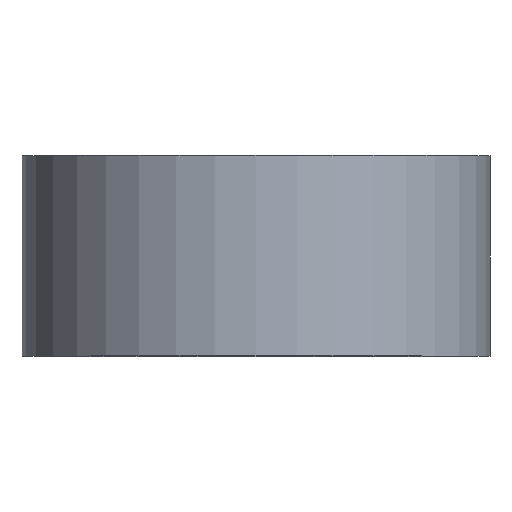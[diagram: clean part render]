
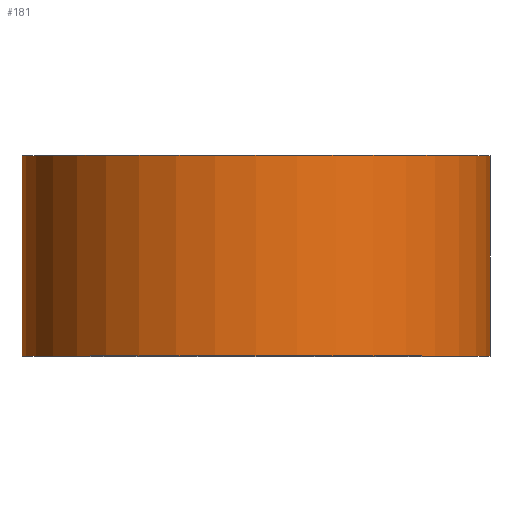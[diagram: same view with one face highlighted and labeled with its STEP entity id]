
A CAD part, top view. The second image highlights one B-rep face of the part: STEP entity #181.
In plain terms, the highlighted cylindrical face has radius 35 mm (diameter 70 mm), a partial arc.
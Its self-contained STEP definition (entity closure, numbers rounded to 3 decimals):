
#3 = DIRECTION ( 'NONE',  ( 0., 1., 0. ) ) ;
#5 = CIRCLE ( 'NONE', #141, 35. ) ;
#30 = CARTESIAN_POINT ( 'NONE',  ( 0., 0., 0. ) ) ;
#40 = CARTESIAN_POINT ( 'NONE',  ( 35., 0., 0. ) ) ;
#54 = AXIS2_PLACEMENT_3D ( 'NONE', #30, #256, #282 ) ;
#69 = VERTEX_POINT ( 'NONE', #40 ) ;
#73 = LINE ( 'NONE', #204, #300 ) ;
#76 = DIRECTION ( 'NONE',  ( 0., 1., 0. ) ) ;
#78 = ORIENTED_EDGE ( 'NONE', *, *, #79, .T. ) ;
#79 = EDGE_CURVE ( 'NONE', #69, #114, #275, .T. ) ;
#83 = CARTESIAN_POINT ( 'NONE',  ( 35., 30., 0. ) ) ;
#104 = VERTEX_POINT ( 'NONE', #243 ) ;
#114 = VERTEX_POINT ( 'NONE', #83 ) ;
#116 = FACE_OUTER_BOUND ( 'NONE', #128, .T. ) ;
#122 = CIRCLE ( 'NONE', #215, 35. ) ;
#124 = DIRECTION ( 'NONE',  ( -1., 0., 0. ) ) ;
#128 = EDGE_LOOP ( 'NONE', ( #137, #78, #220, #152 ) ) ;
#137 = ORIENTED_EDGE ( 'NONE', *, *, #198, .T. ) ;
#138 = CYLINDRICAL_SURFACE ( 'NONE', #54, 35. ) ;
#141 = AXIS2_PLACEMENT_3D ( 'NONE', #285, #76, #228 ) ;
#145 = DIRECTION ( 'NONE',  ( 0., 1., 0. ) ) ;
#147 = CARTESIAN_POINT ( 'NONE',  ( 0., 30., 0. ) ) ;
#152 = ORIENTED_EDGE ( 'NONE', *, *, #235, .F. ) ;
#156 = CARTESIAN_POINT ( 'NONE',  ( 35., 0., 0. ) ) ;
#175 = DIRECTION ( 'NONE',  ( 0., 1., 0. ) ) ;
#181 = ADVANCED_FACE ( 'NONE', ( #116 ), #138, .T. ) ;
#198 = EDGE_CURVE ( 'NONE', #104, #69, #5, .T. ) ;
#204 = CARTESIAN_POINT ( 'NONE',  ( -35., 0., 0. ) ) ;
#215 = AXIS2_PLACEMENT_3D ( 'NONE', #147, #3, #124 ) ;
#220 = ORIENTED_EDGE ( 'NONE', *, *, #222, .F. ) ;
#222 = EDGE_CURVE ( 'NONE', #244, #114, #122, .T. ) ;
#224 = CARTESIAN_POINT ( 'NONE',  ( -35., 30., 0. ) ) ;
#228 = DIRECTION ( 'NONE',  ( -1., 0., 0. ) ) ;
#235 = EDGE_CURVE ( 'NONE', #104, #244, #73, .T. ) ;
#243 = CARTESIAN_POINT ( 'NONE',  ( -35., 0., 0. ) ) ;
#244 = VERTEX_POINT ( 'NONE', #224 ) ;
#256 = DIRECTION ( 'NONE',  ( 0., 1., 0. ) ) ;
#261 = VECTOR ( 'NONE', #175, 1000. ) ;
#275 = LINE ( 'NONE', #156, #261 ) ;
#282 = DIRECTION ( 'NONE',  ( -1., 0., 0. ) ) ;
#285 = CARTESIAN_POINT ( 'NONE',  ( 0., 0., 0. ) ) ;
#300 = VECTOR ( 'NONE', #145, 1000. ) ;
